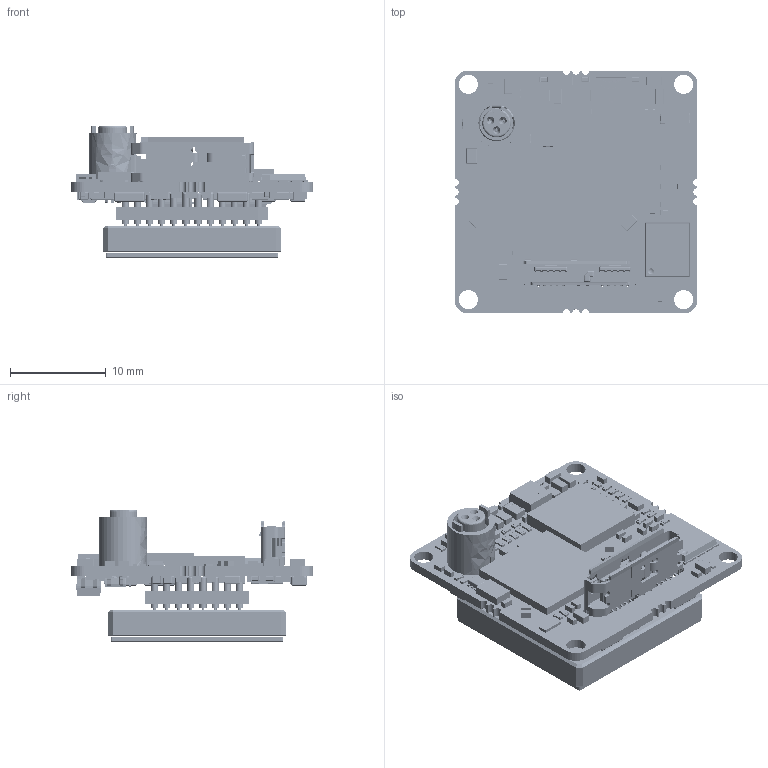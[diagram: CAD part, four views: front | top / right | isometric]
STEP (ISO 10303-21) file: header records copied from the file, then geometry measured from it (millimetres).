
FILE_DESCRIPTION(('Open CASCADE Model'),'2;1');
FILE_NAME('Open CASCADE Shape Model','2016-03-23T11:04:39',('Author'),( 'Open CASCADE'),'Open CASCADE STEP processor 6.8','Open CASCADE 6.8' ,'Unknown');
FILE_SCHEMA(('AUTOMOTIVE_DESIGN { 1 0 10303 214 1 1 1 1 }'));
Length unit declared in the file: millimetre
Products named in the file (277): PCB; Board; C130; cap0402; C129; C92; C34; C13; L12; 0402_L; C28; U11; User_Library-VFQFPN8_(MLP8); 901598424; Extruded; L30; C117; ChipCap(0603); C116; C115; C114; C113; C112; C111; C110; C109; C108; C107; C106; C103; R31; ChipRes(0402); R30; C98; C94; C65; C58; C56; C23; C17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
Assembly tree (462 placements, depth 5):
  PCB
    Board
    C130
      cap0402
    C129
      cap0402
    C92
      cap0402
    C34
      cap0402
    C13
      cap0402
    L12
      0402_L
    C28
      cap0402
    U11
      User_Library-VFQFPN8_(MLP8)
      901598424
        Extruded
    L30
      0402_L
    C117
      ChipCap(0603)
    C116
      cap0402
    C115
      cap0402
    C114
      cap0402
    C113
      ChipCap(0603)
    C112
      cap0402
    C111
      cap0402
    C110
      cap0402
    C109
      cap0402
    C108
      cap0402
    C107
      ChipCap(0603)
    C106
      cap0402
    C103
      ChipCap(0603)
    R31
      ChipRes(0402)
    R30
      ChipRes(0402)
    C98
      cap0402
    C94
      cap0402
    C65
      ChipCap(0603)
    C58
      ChipCap(0603)
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Bounding box: 25.4 x 25.4 x 13.84 mm (x, y, z)
Volume: 2097.3 mm3; surface area: 7849 mm2
Topology: 449 solids, 2417 shells, 13391 faces, 37801 edges, 26262 vertices
Faces by surface type: plane 7042, cylinder 3884, bspline 1662, sphere 508, cone 196, torus 99
Full cylindrical faces by diameter (mm): 0.3 x95, 0.5 x99, 0.76 x190, 2 x4
Entity records: 544647 total; most frequent: CARTESIAN_POINT 254007, DIRECTION 40550, LINE 25693, VECTOR 25693, ORIENTED_EDGE 23103, PCURVE 23103, DEFINITIONAL_REPRESENTATION 23103, EDGE_CURVE 16829
